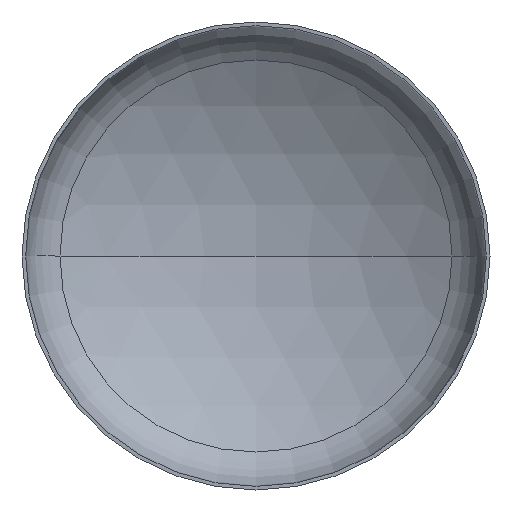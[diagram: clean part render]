
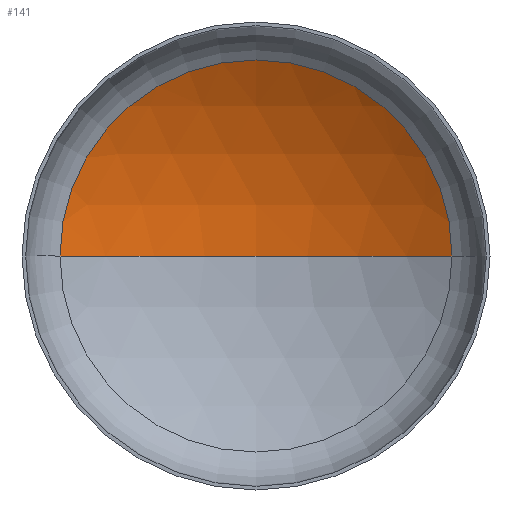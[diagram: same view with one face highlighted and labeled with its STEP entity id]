
A CAD part, front view. The second image highlights one B-rep face of the part: STEP entity #141.
In plain terms, the highlighted spherical face has radius 4000 mm.
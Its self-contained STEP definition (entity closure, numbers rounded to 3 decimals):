
#7 = AXIS2_PLACEMENT_3D ( 'NONE', #401, #246, #358 ) ;
#12 = AXIS2_PLACEMENT_3D ( 'NONE', #119, #272, #333 ) ;
#27 = VERTEX_POINT ( 'NONE', #355 ) ;
#30 = ORIENTED_EDGE ( 'NONE', *, *, #343, .T. ) ;
#50 = AXIS2_PLACEMENT_3D ( 'NONE', #296, #219, #214 ) ;
#62 = CARTESIAN_POINT ( 'NONE',  ( -2094.118, 776.046, 0. ) ) ;
#66 = CIRCLE ( 'NONE', #7, 4000. ) ;
#68 = VERTEX_POINT ( 'NONE', #243 ) ;
#91 = ORIENTED_EDGE ( 'NONE', *, *, #388, .F. ) ;
#113 = FACE_OUTER_BOUND ( 'NONE', #385, .T. ) ;
#119 = CARTESIAN_POINT ( 'NONE',  ( 0., 776.046, 0. ) ) ;
#141 = ADVANCED_FACE ( 'NONE', ( #113 ), #399, .F. ) ;
#146 = DIRECTION ( 'NONE',  ( 1., 0., 0. ) ) ;
#147 = CIRCLE ( 'NONE', #12, 2094.118 ) ;
#209 = CARTESIAN_POINT ( 'NONE',  ( 0., -2631.985, 0. ) ) ;
#214 = DIRECTION ( 'NONE',  ( -1., 0., 0. ) ) ;
#217 = DIRECTION ( 'NONE',  ( 0., 0., 1. ) ) ;
#219 = DIRECTION ( 'NONE',  ( 0., 0., -1. ) ) ;
#243 = CARTESIAN_POINT ( 'NONE',  ( 0., 1368.015, 0. ) ) ;
#246 = DIRECTION ( 'NONE',  ( 0., 0., -1. ) ) ;
#272 = DIRECTION ( 'NONE',  ( 0., -1., 0. ) ) ;
#278 = CIRCLE ( 'NONE', #287, 4000. ) ;
#287 = AXIS2_PLACEMENT_3D ( 'NONE', #209, #217, #146 ) ;
#296 = CARTESIAN_POINT ( 'NONE',  ( 0., -2631.985, 0. ) ) ;
#304 = ORIENTED_EDGE ( 'NONE', *, *, #346, .T. ) ;
#326 = VERTEX_POINT ( 'NONE', #62 ) ;
#333 = DIRECTION ( 'NONE',  ( 1., 0., 0. ) ) ;
#343 = EDGE_CURVE ( 'NONE', #27, #326, #147, .T. ) ;
#346 = EDGE_CURVE ( 'NONE', #68, #27, #66, .T. ) ;
#355 = CARTESIAN_POINT ( 'NONE',  ( 2094.118, 776.046, 0. ) ) ;
#358 = DIRECTION ( 'NONE',  ( -1., 0., 0. ) ) ;
#385 = EDGE_LOOP ( 'NONE', ( #91, #304, #30 ) ) ;
#388 = EDGE_CURVE ( 'NONE', #68, #326, #278, .T. ) ;
#399 = SPHERICAL_SURFACE ( 'NONE', #50, 4000. ) ;
#401 = CARTESIAN_POINT ( 'NONE',  ( 0., -2631.985, 0. ) ) ;
